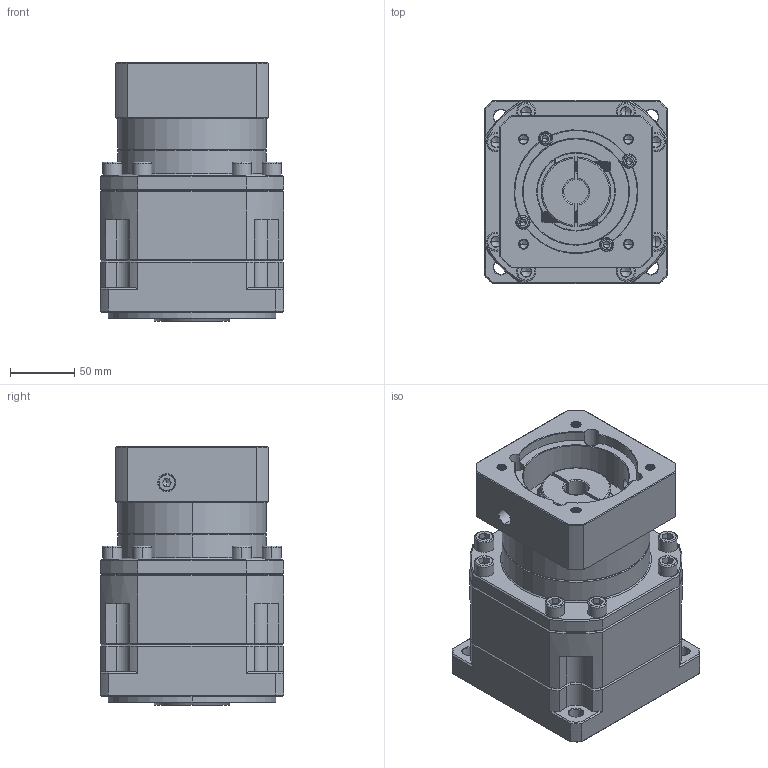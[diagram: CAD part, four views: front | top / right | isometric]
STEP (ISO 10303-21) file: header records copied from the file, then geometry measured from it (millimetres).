
FILE_DESCRIPTION (( 'STEP AP214' ), '1' );
FILE_NAME ('ZB142A-K35-L2-19-95-115-M8.step', '2023-03-18T07:07:17', ( '' ), ( '' ), 'SwSTEP 2.0', 'SolidWorks 2016', '' );
FILE_SCHEMA (( 'AUTOMOTIVE_DESIGN' ));
Length unit declared in the file: millimetre
Products named in the file (1): ZB142A-K35-L2-19-95-115-M8
Bounding box: 142 x 142 x 200.7 mm (x, y, z)
Volume: 2802655.9 mm3; surface area: 233187.4 mm2
Topology: 6 solids, 6 shells, 2229 faces, 5776 edges, 3663 vertices
Faces by surface type: plane 1018, cylinder 460, cone 395, bspline 320, torus 36
Entity records: 114236 total; most frequent: CARTESIAN_POINT 37711, ORIENTED_EDGE 11448, DIRECTION 9760, EDGE_CURVE 5724, VERTEX_POINT 3663, LINE 3540, VECTOR 3540, AXIS2_PLACEMENT_3D 3110
